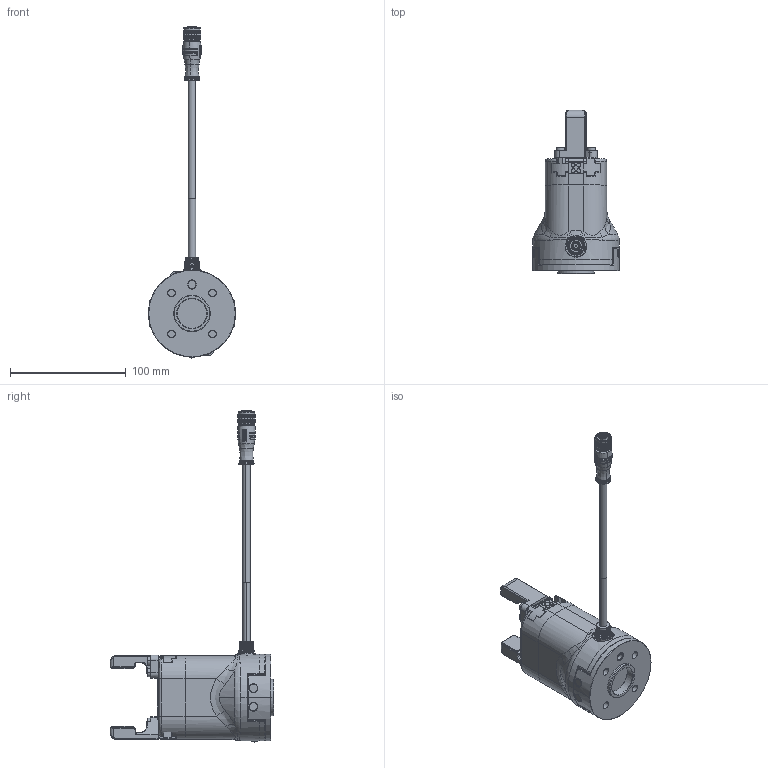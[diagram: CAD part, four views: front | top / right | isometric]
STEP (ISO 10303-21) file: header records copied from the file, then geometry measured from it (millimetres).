
FILE_DESCRIPTION (( 'STEP AP214' ), '1' );
FILE_NAME ('PGC-140-50-W-S_潠眢耀倰_v3.0_20230724.STEP', '2023-07-24T12:00:18', ( '' ), ( '' ), 'SwSTEP 2.0', 'SolidWorks 2020', '' );
FILE_SCHEMA (( 'AUTOMOTIVE_DESIGN' ));
Length unit declared in the file: millimetre
Products named in the file (4): 衵硌潑^PGC-140-50-剞攜郪璃; PGC-140-50-W-S_潠眢耀倰_v3.0_20230724; 翋极^PGC-140-50-剞攜郪璃; 酘硌潑^PGC-140-50-剞攜郪璃
Assembly tree (3 placements, depth 2):
  PGC-140-50-W-S_潠眢耀倰_v3.0_20230724
    翋极^PGC-140-50-剞攜郪璃
    酘硌潑^PGC-140-50-剞攜郪璃
    衵硌潑^PGC-140-50-剞攜郪璃
Bounding box: 75 x 141 x 286.4 mm (x, y, z)
Volume: 29996.2 mm3; surface area: 87431.7 mm2
Topology: 10 solids, 34 shells, 1576 faces, 3897 edges, 2442 vertices
Faces by surface type: plane 570, cylinder 428, bspline 299, cone 234, torus 44, sphere 1
Full cylindrical faces by diameter (mm): 11.1 x3
Entity records: 84234 total; most frequent: CARTESIAN_POINT 32254, ORIENTED_EDGE 7672, DIRECTION 6300, EDGE_CURVE 3840, VERTEX_POINT 2428, AXIS2_PLACEMENT_3D 2392, EDGE_LOOP 1710, UNCERTAINTY_MEASURE_WITH_UNIT 1609
